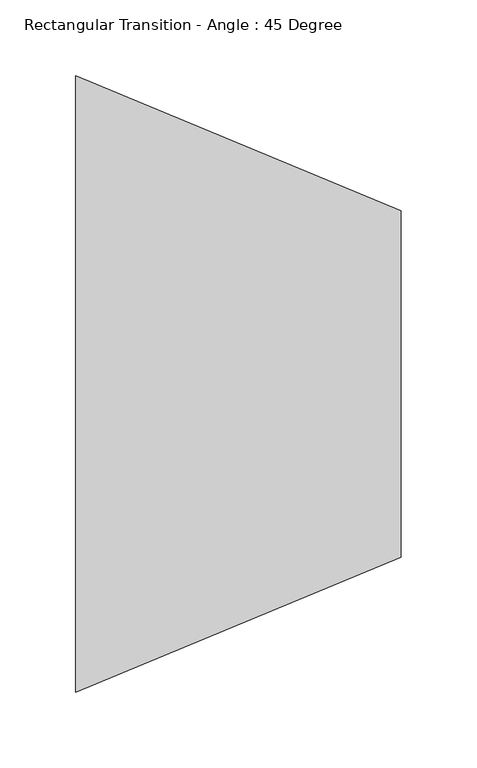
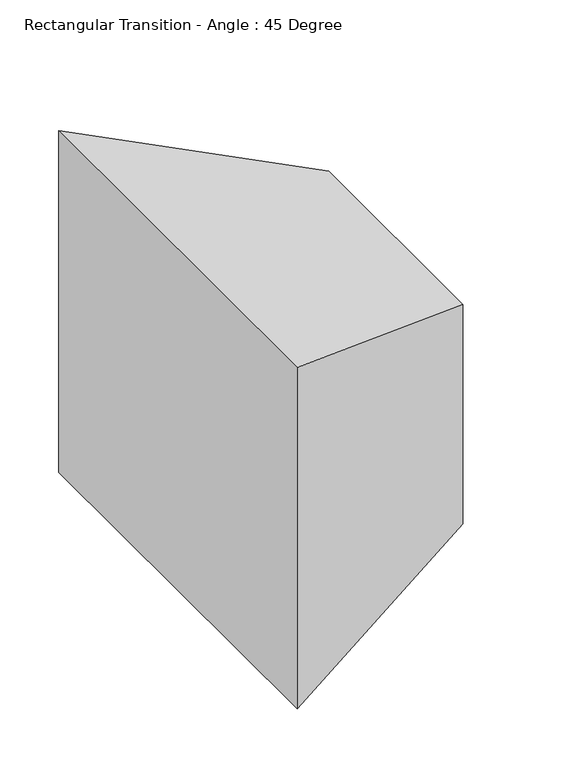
"""IFC4 building model written with IfcOpenShell, lengths in millimetres: duct fitting geometry, Rectangular Transition - Angle : 45 Degree."""

from ifc_helpers import new_model, si_unit, origin, place, context, project, spatial, faceted_brep, source, transform, mapped, element, save


def rectangular_transition_angle_45_degree_d2551588(model_context):
    return source(origin(), model_context, "Body", "Brep", [
        faceted_brep([(214.6235857, -114.3, 114.3), (214.6235857, -114.3, -114.3), (214.6235857, 114.3, -114.3), (214.6235857, 114.3, 114.3), (0.0, -203.2, 177.8), (0.0, 203.2, 177.8), (0.0, 203.2, -177.8), (0.0, -203.2, -177.8)], [[[0, 1, 2, 3]], [[4, 5, 6, 7]], [[4, 7, 1, 0]], [[7, 6, 2, 1]], [[6, 5, 3, 2]], [[5, 4, 0, 3]]]),
    ])


if __name__ == "__main__":
    model = new_model("IFC4")
    model_context = context("Model", 3, world=origin())
    ifc_project = project(units=[si_unit("LENGTHUNIT", "METRE", prefix="MILLI")], contexts=[model_context])
    site = spatial("IfcSite", under=ifc_project)
    building = spatial("IfcBuilding", under=site)
    placement = place(None, origin())
    rectangular_transition_angle_45_degree_shape = rectangular_transition_angle_45_degree_d2551588(model_context)
    element("IfcDuctFitting", 1, ObjectType="Rectangular Transition - Angle : 45 Degree", at=placement, inside=building, context=model_context, shape_type="MappedRepresentation", body=[
        mapped(rectangular_transition_angle_45_degree_shape, transform((0.0, 0.0, 0.0), x_axis=(1.0, 0.0, 0.0), y_axis=(0.0, 1.0, 0.0), z_axis=(0.0, 0.0, 1.0))),
    ])
    save(model, "model.ifc")
